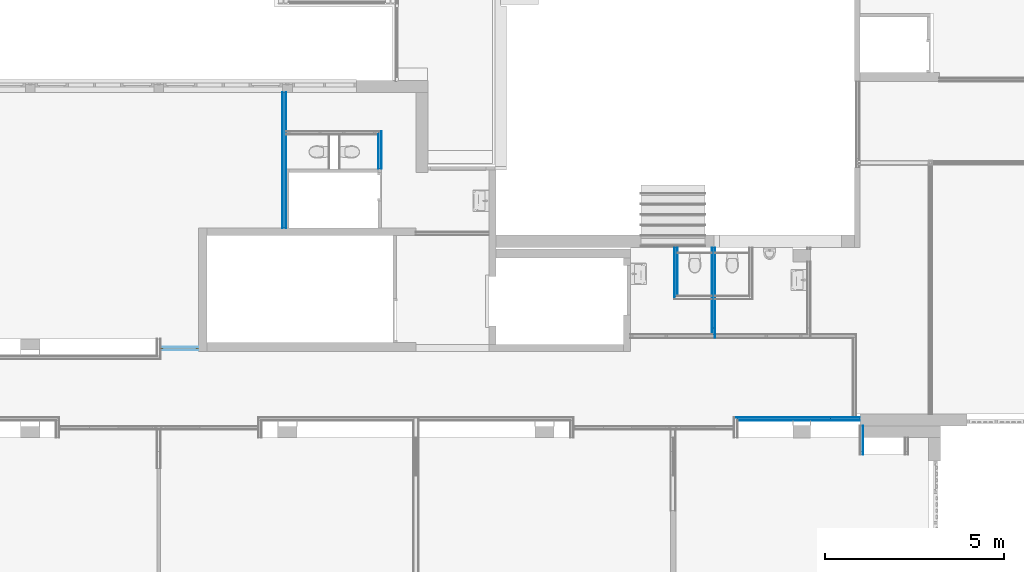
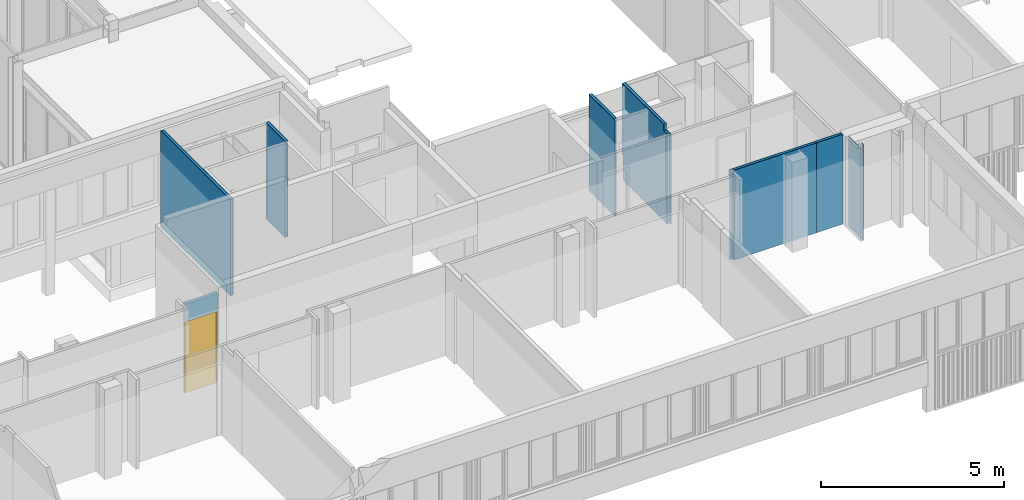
# One storey, part 60 of 99: 19 building element parts, 1 door, 1 opening, 8 elements without a shape of their own, plus 3 elements that do not belong to this part.
"""IFC2X3 building model written with IfcOpenShell, lengths in millimetres."""

from ifc_helpers import new_model, entity, si_unit, converted_unit, derived_unit, money_unit, direction, frame, origin_with_axes, place, context, subcontext, project, spatial, open_shell, faceted_brep, surface_model, material, type_object, element, fill, aggregate, save


model = new_model("IFC2X3")

# Units and contexts
model_context = context("Model", 3, precision=0.01, world=origin_with_axes(), true_north=direction((0.0, 1.0)))
body_context = subcontext(model_context, "Body", "Model", "MODEL_VIEW")
ifc_project = project(units=[si_unit("LENGTHUNIT", "METRE", prefix="MILLI"), si_unit("AREAUNIT", "SQUARE_METRE"), si_unit("VOLUMEUNIT", "CUBIC_METRE"), converted_unit("PLANEANGLEUNIT", "DEGREE", entity("IfcPlaneAngleMeasure", 0.0174532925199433), si_unit("PLANEANGLEUNIT", "RADIAN"), dimensions=[0, 0, 0, 0, 0, 0, 0]), money_unit("EUR"), converted_unit("TIMEUNIT", "Year", entity("IfcTimeMeasure", 31557600.0), si_unit("TIMEUNIT", "SECOND"), dimensions=[0, 0, 1, 0, 0, 0, 0]), si_unit("MASSUNIT", "GRAM", prefix="KILO"), si_unit("THERMODYNAMICTEMPERATUREUNIT", "DEGREE_CELSIUS"), si_unit("LUMINOUSINTENSITYUNIT", "LUMEN"), si_unit("ENERGYUNIT", "JOULE", prefix="MEGA"), derived_unit("THERMALCONDUCTANCEUNIT", [(si_unit("POWERUNIT", "WATT"), 1), (si_unit("LENGTHUNIT", "METRE"), -1), (si_unit("THERMODYNAMICTEMPERATUREUNIT", "KELVIN"), -1)]), derived_unit("SPECIFICHEATCAPACITYUNIT", [(si_unit("ENERGYUNIT", "JOULE"), 1), (si_unit("MASSUNIT", "GRAM", prefix="KILO"), -1), (si_unit("THERMODYNAMICTEMPERATUREUNIT", "KELVIN"), -1)]), derived_unit("MASSDENSITYUNIT", [(si_unit("MASSUNIT", "GRAM", prefix="KILO"), 1), (si_unit("VOLUMEUNIT", "CUBIC_METRE"), -1)])], contexts=[model_context])

# Site, building, storey
site_placement = place(None, origin_with_axes())
site = spatial("IfcSite", under=ifc_project, at=site_placement, Name="Site", CompositionType="ELEMENT")
building_placement = place(site_placement, origin_with_axes())
building = spatial("IfcBuilding", under=site, at=building_placement, Name="Naam gebouw", CompositionType="ELEMENT")
storey_placement = place(building_placement, frame((0.0, 0.0, 7650.0), z_axis=(0.0, 0.0, 1.0), x_axis=(1.0, 0.0, 0.0)))
storey = spatial("IfcBuildingStorey", under=building, at=storey_placement, Name="2e verdieping N", CompositionType="ELEMENT", Elevation=7650.0)

# Door
door_style = type_object("IfcDoorStyle", Name="D1 zl2 27", ConstructionType="NOTDEFINED", OperationType="USERDEFINED", ParameterTakesPrecedence=False, Sizeable=False)
wall_7_placement = place(storey_placement, frame((10850.0, 12825.85635739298, 0.0), z_axis=(0.0, 0.0, 1.0), x_axis=(1.0, 0.0, 0.0)))
opening_placement = place(wall_7_placement, frame((527.7502592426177, 0.0, 0.0), z_axis=(0.0, 0.0, 1.0), x_axis=(1.0, 0.0, 0.0)))
door_placement = place(opening_placement, frame((-527.7502592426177, 0.0, 0.0), z_axis=(0.0, 0.0, 1.0), x_axis=(1.0, 0.0, 0.0)))
door = element("IfcDoor", 1, at=door_placement, inside=storey, type_object=door_style, Name="_Merk-x", ObjectType="DOOR", OverallHeight=2400.0, OverallWidth=1055.5, context=body_context, shape_type="SurfaceModel", body=[
    faceted_brep([(0.0, 9.999999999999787, 0.0), (29.99999999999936, 9.999999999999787, 0.0), (29.99999999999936, -9.999999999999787, 0.0), (0.0, -9.999999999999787, 0.0), (0.0, 9.999999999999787, 2369.999999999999), (29.99999999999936, 9.999999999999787, 2369.999999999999), (29.99999999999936, 9.999999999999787, 30.00000000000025), (29.99999999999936, -9.999999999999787, 30.00000000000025), (29.99999999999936, -9.999999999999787, 2369.999999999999), (0.0, -9.999999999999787, 2369.999999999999)], [[[0, 1, 2, 3]], [[0, 4, 5, 6, 1]], [[1, 6, 7, 2]], [[3, 2, 7, 8, 9]], [[4, 0, 3, 9]], [[5, 4, 9, 8]], [[6, 5, 8, 7]]]),
    faceted_brep([(77.7881246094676, -9.000000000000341, 0.0), (77.7881246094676, -9.000000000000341, 2369.999999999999), (77.7881246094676, -9.999999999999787, 2369.999999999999), (77.7881246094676, -9.999999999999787, 0.0), (60.78812460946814, -9.000000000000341, 2369.999999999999), (60.78812460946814, -9.000000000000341, 0.0), (60.78812460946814, 9.999999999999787, 2369.999999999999), (47.78812460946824, 9.999999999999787, 2369.999999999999), (47.78812460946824, -9.999999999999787, 2369.999999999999), (47.78812460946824, -9.999999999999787, 0.0), (47.78812460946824, -9.999999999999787, 30.00000000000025), (47.78812460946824, 9.999999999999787, 0.0), (60.78812460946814, 9.999999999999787, 0.0), (47.78812460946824, 9.999999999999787, 30.00000000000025)], [[[0, 1, 2, 3]], [[4, 1, 0, 5]], [[4, 6, 7, 8, 2, 1]], [[9, 3, 2, 8, 10]], [[5, 0, 3, 9, 11, 12]], [[6, 4, 5, 12]], [[6, 12, 11, 13, 7]], [[13, 10, 8, 7]], [[11, 9, 10, 13]]]),
    faceted_brep([(29.99999999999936, 9.999999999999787, 30.00000000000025), (29.99999999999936, 9.999999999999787, 0.0), (29.99999999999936, -9.999999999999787, 0.0), (29.99999999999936, -9.999999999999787, 30.00000000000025), (47.78812460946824, 9.999999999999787, 30.00000000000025), (47.78812460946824, 9.999999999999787, 0.0), (47.78812460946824, -9.999999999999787, 0.0), (47.78812460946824, -9.999999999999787, 30.00000000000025)], [[[0, 1, 2, 3]], [[0, 4, 5, 1]], [[1, 5, 6, 2]], [[3, 2, 6, 7]], [[4, 0, 3, 7]], [[5, 4, 7, 6]]]),
    faceted_brep([(1055.500518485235, 9.999999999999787, 0.0), (1055.500518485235, 9.999999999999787, 2369.999999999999), (1055.500518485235, -9.999999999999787, 2369.999999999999), (1055.500518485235, -9.999999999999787, 0.0), (1025.500518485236, 9.999999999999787, 0.0), (1025.500518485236, 9.999999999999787, 30.00000000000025), (1025.500518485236, 9.999999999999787, 2369.999999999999), (1025.500518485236, -9.999999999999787, 2369.999999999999), (1025.500518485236, -9.999999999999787, 30.00000000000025), (1025.500518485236, -9.999999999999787, 0.0)], [[[0, 1, 2, 3]], [[0, 4, 5, 6, 1]], [[1, 6, 7, 2]], [[3, 2, 7, 8, 9]], [[4, 0, 3, 9]], [[5, 4, 9, 8]], [[6, 5, 8, 7]]]),
    faceted_brep([(994.7881246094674, -9.000000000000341, 2369.999999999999), (977.788124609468, -9.000000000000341, 2369.999999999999), (977.788124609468, -9.999999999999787, 2369.999999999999), (1007.788124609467, -9.999999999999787, 2369.999999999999), (1007.788124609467, 9.999999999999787, 2369.999999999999), (994.7881246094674, 9.999999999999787, 2369.999999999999), (994.7881246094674, -9.000000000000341, 0.0), (977.788124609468, -9.000000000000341, 0.0), (977.788124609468, -9.999999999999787, 0.0), (1007.788124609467, -9.999999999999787, 0.0), (1007.788124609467, -9.999999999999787, 30.00000000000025), (1007.788124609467, 9.999999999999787, 30.00000000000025), (994.7881246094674, 9.999999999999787, 0.0), (1007.788124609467, 9.999999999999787, 0.0)], [[[0, 1, 2, 3, 4, 5]], [[1, 0, 6, 7]], [[1, 7, 8, 2]], [[8, 9, 10, 3, 2]], [[4, 3, 10, 11]], [[12, 5, 4, 11, 13]], [[0, 5, 12, 6]], [[6, 12, 13, 9, 8, 7]], [[11, 10, 9, 13]]]),
    faceted_brep([(1007.788124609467, 9.999999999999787, 30.00000000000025), (1007.788124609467, 9.999999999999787, 0.0), (1007.788124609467, -9.999999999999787, 0.0), (1007.788124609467, -9.999999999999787, 30.00000000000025), (1025.500518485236, 9.999999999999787, 30.00000000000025), (1025.500518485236, 9.999999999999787, 0.0), (1025.500518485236, -9.999999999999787, 0.0), (1025.500518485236, -9.999999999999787, 30.00000000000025)], [[[0, 1, 2, 3]], [[0, 4, 5, 1]], [[1, 5, 6, 2]], [[3, 2, 6, 7]], [[4, 0, 3, 7]], [[5, 4, 7, 6]]]),
    faceted_brep([(60.78812460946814, 9.999999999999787, 2387.0), (60.78812460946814, 9.999999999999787, 2369.999999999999), (47.78812460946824, 9.999999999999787, 2369.999999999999), (29.99999999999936, 9.999999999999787, 2369.999999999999), (0.0, 9.999999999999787, 2369.999999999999), (0.0, 9.999999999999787, 2400.0), (1055.500518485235, 9.999999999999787, 2400.0), (1055.500518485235, 9.999999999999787, 2369.999999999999), (1025.500518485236, 9.999999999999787, 2369.999999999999), (1007.788124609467, 9.999999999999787, 2369.999999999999), (994.7881246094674, 9.999999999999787, 2369.999999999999), (994.7881246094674, 9.999999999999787, 2387.0), (60.78812460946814, -9.000000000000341, 2387.0), (60.78812460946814, -9.000000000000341, 2369.999999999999), (977.788124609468, -9.000000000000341, 2369.999999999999), (977.788124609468, -9.999999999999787, 2369.999999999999), (77.7881246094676, -9.999999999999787, 2369.999999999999), (47.78812460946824, -9.999999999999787, 2369.999999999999), (29.99999999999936, -9.999999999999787, 2369.999999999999), (0.0, -9.999999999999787, 2369.999999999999), (0.0, -9.999999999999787, 2400.0), (1055.500518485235, -9.999999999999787, 2400.0), (1055.500518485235, -9.999999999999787, 2369.999999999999), (1025.500518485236, -9.999999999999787, 2369.999999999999), (994.7881246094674, -9.000000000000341, 2369.999999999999), (1007.788124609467, -9.999999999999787, 2369.999999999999), (994.7881246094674, -9.000000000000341, 2387.0)], [[[0, 1, 2, 3, 4, 5, 6, 7, 8, 9, 10, 11]], [[1, 0, 12, 13]], [[13, 14, 15, 16, 17, 2, 1]], [[2, 17, 18, 3]], [[3, 18, 19, 4]], [[4, 19, 20, 5]], [[5, 20, 21, 6]], [[6, 21, 22, 7]], [[7, 22, 23, 8]], [[24, 10, 9, 8, 23, 25, 15, 14]], [[11, 10, 24, 26]], [[0, 11, 26, 12]], [[24, 14, 13, 12, 26]], [[23, 22, 21, 20, 19, 18, 17, 16, 15, 25]]]),
    faceted_brep([(994.7881246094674, 0.9999999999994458, 0.0), (994.7881246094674, -9.000000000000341, 0.0), (60.78812460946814, -9.000000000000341, 0.0), (60.78812460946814, 0.9999999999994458, 0.0), (994.7881246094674, 0.9999999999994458, 2387.0), (994.7881246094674, -9.000000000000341, 2387.0), (60.78812460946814, -9.000000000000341, 2387.0), (60.78812460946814, 0.9999999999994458, 2387.0)], [[[0, 1, 2, 3]], [[4, 5, 1, 0]], [[1, 5, 6, 2]], [[3, 2, 6, 7]], [[0, 3, 7, 4]], [[7, 6, 5, 4]]]),
    surface_model("IfcShellBasedSurfaceModel", [(29.99999999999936, 9.000000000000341, 30.00000000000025), (29.99999999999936, 9.000000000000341, 2369.999999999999), (47.78812460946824, 9.000000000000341, 2369.999999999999), (47.78812460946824, 9.000000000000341, 30.00000000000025)], [open_shell([[[0, 1, 2, 3]]])]),
    surface_model("IfcShellBasedSurfaceModel", [(29.99999999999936, 0.9999999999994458, 30.00000000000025), (47.78812460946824, 0.9999999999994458, 30.00000000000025), (47.78812460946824, 0.9999999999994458, 2369.999999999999), (29.99999999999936, 0.9999999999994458, 2369.999999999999)], [open_shell([[[0, 1, 2, 3]]])]),
    surface_model("IfcShellBasedSurfaceModel", [(1007.788124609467, 9.000000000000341, 30.00000000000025), (1007.788124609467, 9.000000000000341, 2369.999999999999), (1025.500518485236, 9.000000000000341, 2369.999999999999), (1025.500518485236, 9.000000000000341, 30.00000000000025)], [open_shell([[[0, 1, 2, 3]]])]),
    surface_model("IfcShellBasedSurfaceModel", [(1007.788124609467, 0.9999999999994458, 30.00000000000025), (1025.500518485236, 0.9999999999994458, 30.00000000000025), (1025.500518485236, 0.9999999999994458, 2369.999999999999), (1007.788124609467, 0.9999999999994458, 2369.999999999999)], [open_shell([[[0, 1, 2, 3]]])]),
])

# Wall, building element parts
wall_type = type_object("IfcWallType", Name="Metalstud iso 100 100", PredefinedType="NOTDEFINED")
wall_1_placement = place(storey_placement, frame((25227.99999999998, 15650.91242510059, 0.0), z_axis=(0.0, 0.0, 1.0), x_axis=(0.0, -1.0, 0.0)))
wall_1 = element("IfcWall", 2, at=wall_1_placement, inside=storey, type_object=wall_type, Name="_Wand-x")
ifc_material_1 = material(Name="Gipsplaat")
building_element_part_1_placement = place(wall_1_placement, origin_with_axes())
building_element_part_1 = element("IfcBuildingElementPart", 3, at=building_element_part_1_placement, material=ifc_material_1, Name="Gipsplaat", context=body_context, shape_type="Brep", body=[
    faceted_brep([(0.0, 100.0000000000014, 0.0), (0.0, 100.0000000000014, 2539.999999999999), (0.0, 100.0000000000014, 3199.999999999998), (1350.0, 100.0000000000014, 3199.999999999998), (1350.0, 100.0000000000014, 0.0), (0.0, 87.49999999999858, 0.0), (0.0, 87.49999999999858, 2539.999999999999), (0.0, 87.49999999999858, 3199.999999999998), (1350.0, 87.49999999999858, 3199.999999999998), (1350.0, 87.49999999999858, 0.0)], [[[0, 1, 2, 3, 4]], [[1, 0, 5, 6, 7, 2]], [[3, 2, 7, 8]], [[4, 3, 8, 9]], [[5, 0, 4, 9]], [[6, 5, 9, 8, 7]]]),
])
ifc_material_2 = material(Name="Isolatie - Steenwol LSW")
building_element_part_2_placement = place(wall_1_placement, origin_with_axes())
building_element_part_2 = element("IfcBuildingElementPart", 4, at=building_element_part_2_placement, material=ifc_material_2, Name="Isolatie - Steenwol LSW", context=body_context, shape_type="Brep", body=[
    faceted_brep([(0.0, 87.49999999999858, 0.0), (0.0, 87.49999999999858, 2539.999999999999), (0.0, 87.49999999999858, 3199.999999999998), (1362.500000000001, 87.49999999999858, 3199.999999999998), (1362.500000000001, 87.49999999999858, 0.0), (0.0, 12.49999999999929, 0.0), (0.0, 12.49999999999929, 2539.999999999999), (0.0, 12.49999999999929, 3199.999999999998), (1362.500000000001, 12.49999999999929, 3199.999999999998), (1362.500000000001, 12.49999999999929, 0.0)], [[[0, 1, 2, 3, 4]], [[1, 0, 5, 6, 7, 2]], [[3, 2, 7, 8]], [[4, 3, 8, 9]], [[5, 0, 4, 9]], [[6, 5, 9, 8, 7]]]),
])
building_element_part_3_placement = place(wall_1_placement, origin_with_axes())
building_element_part_3 = element("IfcBuildingElementPart", 5, at=building_element_part_3_placement, material=ifc_material_1, Name="Gipsplaat", context=body_context, shape_type="Brep", body=[
    faceted_brep([(0.0, 12.49999999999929, 0.0), (0.0, 12.49999999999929, 2539.999999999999), (0.0, 12.49999999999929, 3199.999999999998), (1437.5, 12.49999999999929, 3199.999999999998), (1437.5, 12.49999999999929, 0.0), (0.0, 0.0, 0.0), (0.0, 0.0, 2539.999999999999), (0.0, 0.0, 3199.999999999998), (1437.5, 0.0, 3199.999999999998), (1437.5, 0.0, 0.0)], [[[0, 1, 2, 3, 4]], [[1, 0, 5, 6, 7, 2]], [[3, 2, 7, 8]], [[4, 3, 8, 9]], [[5, 0, 4, 9]], [[6, 5, 9, 8, 7]]]),
])
aggregate(wall_1, [building_element_part_1, building_element_part_2, building_element_part_3])

wall_2_placement = place(storey_placement, frame((16937.79224075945, 17856.42315075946, 0.0), z_axis=(0.0, 0.0, 1.0), x_axis=(0.0, 1.0, 0.0)))
wall_2 = element("IfcWall", 6, at=wall_2_placement, inside=storey, type_object=wall_type, Name="_Wand-x")
building_element_part_4_placement = place(wall_2_placement, origin_with_axes())
building_element_part_4 = element("IfcBuildingElementPart", 7, at=building_element_part_4_placement, material=ifc_material_2, Name="Isolatie - Steenwol LSW", context=body_context, shape_type="Brep", body=[
    faceted_brep([(1037.500000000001, -12.49999999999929, 3199.999999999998), (0.0, -12.49999999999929, 3199.999999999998), (0.0, -87.49999999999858, 3199.999999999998), (1037.500000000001, -87.49999999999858, 3199.999999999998), (1037.500000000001, -12.49999999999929, 0.0), (0.0, -12.49999999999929, 0.0), (0.0, -87.49999999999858, 0.0), (1037.500000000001, -87.49999999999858, 0.0)], [[[0, 1, 2, 3]], [[4, 5, 1, 0]], [[2, 1, 5, 6]], [[3, 2, 6, 7]], [[3, 7, 4, 0]], [[7, 6, 5, 4]]]),
])
building_element_part_5_placement = place(wall_2_placement, origin_with_axes())
building_element_part_5 = element("IfcBuildingElementPart", 8, at=building_element_part_5_placement, material=ifc_material_1, Name="Gipsplaat", context=body_context, shape_type="Brep", body=[
    faceted_brep([(962.5000000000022, 0.0, 3199.999999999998), (0.0, 0.0, 3199.999999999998), (0.0, -12.49999999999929, 3199.999999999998), (962.5000000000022, -12.49999999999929, 3199.999999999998), (962.5000000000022, 0.0, 0.0), (0.0, 0.0, 0.0), (0.0, -12.49999999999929, 0.0), (962.5000000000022, -12.49999999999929, 0.0)], [[[0, 1, 2, 3]], [[4, 5, 1, 0]], [[2, 1, 5, 6]], [[3, 2, 6, 7]], [[3, 7, 4, 0]], [[7, 6, 5, 4]]]),
])

# Wall, building element part
wall_3_placement = place(storey_placement, frame((26327.99999999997, 15650.91242510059, 0.0), z_axis=(0.0, 0.0, 1.0), x_axis=(0.0, -1.0, 0.0)))
wall_3 = element("IfcWall", 9, at=wall_3_placement, inside=storey, type_object=wall_type, Name="_Wand-x")
building_element_part_6_placement = place(wall_3_placement, origin_with_axes())
building_element_part_6 = element("IfcBuildingElementPart", 10, at=building_element_part_6_placement, material=ifc_material_2, Name="Isolatie - Steenwol LSW", context=body_context, shape_type="Brep", body=[
    faceted_brep([(42.49999999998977, 37.50000000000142, 0.0), (42.49999999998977, 37.50000000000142, 839.9999999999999), (0.0, 37.50000000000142, 839.9999999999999), (0.0, 37.50000000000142, 3199.999999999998), (2254.999999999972, 37.50000000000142, 3199.999999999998), (2254.999999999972, 37.50000000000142, 2989.999999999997), (2442.554305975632, 37.50000000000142, 2989.999999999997), (2442.554305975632, 37.50000000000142, 0.0), (42.49999999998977, -37.50000000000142, 0.0), (42.49999999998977, -37.50000000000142, 839.9999999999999), (0.0, -37.50000000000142, 839.9999999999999), (0.0, -37.50000000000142, 3199.999999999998), (2254.999999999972, -37.50000000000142, 3199.999999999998), (2254.999999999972, -37.50000000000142, 2989.999999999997), (2442.554305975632, -37.50000000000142, 2989.999999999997), (2442.554305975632, -37.50000000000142, 0.0)], [[[0, 1, 2, 3, 4, 5, 6, 7]], [[1, 0, 8, 9]], [[10, 2, 1, 9]], [[2, 10, 11, 3]], [[11, 12, 4, 3]], [[13, 5, 4, 12]], [[14, 6, 5, 13]], [[7, 6, 14, 15]], [[8, 0, 7, 15]], [[9, 8, 15, 14, 13, 12, 11, 10]]]),
])

# Building element part
building_element_part_7_placement = place(wall_2_placement, origin_with_axes())
building_element_part_7 = element("IfcBuildingElementPart", 11, at=building_element_part_7_placement, material=ifc_material_1, Name="Gipsplaat", context=body_context, shape_type="Brep", body=[
    faceted_brep([(1050.000000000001, -87.49999999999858, 3199.999999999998), (0.0, -87.49999999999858, 3199.999999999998), (0.0, -100.0000000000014, 3199.999999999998), (1050.000000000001, -100.0000000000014, 3199.999999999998), (1050.000000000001, -87.49999999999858, 0.0), (0.0, -87.49999999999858, 0.0), (0.0, -100.0000000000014, 0.0), (1050.000000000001, -100.0000000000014, 0.0)], [[[0, 1, 2, 3]], [[4, 5, 1, 0]], [[2, 1, 5, 6]], [[3, 2, 6, 7]], [[3, 7, 4, 0]], [[7, 6, 5, 4]]]),
])

aggregate(wall_2, [building_element_part_4, building_element_part_5, building_element_part_7])

building_element_part_8_placement = place(wall_3_placement, origin_with_axes())
building_element_part_8 = element("IfcBuildingElementPart", 12, at=building_element_part_8_placement, material=ifc_material_1, Name="Gipsplaat", context=body_context, shape_type="Brep", body=[
    faceted_brep([(42.49999999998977, 50.00000000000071, 0.0), (42.49999999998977, 50.00000000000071, 839.9999999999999), (0.0, 50.00000000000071, 839.9999999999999), (0.0, 50.00000000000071, 3199.999999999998), (2254.999999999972, 50.00000000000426, 3199.999999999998), (2254.999999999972, 50.00000000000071, 2989.999999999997), (2517.554305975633, 50.00000000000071, 2989.999999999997), (2517.554305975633, 50.00000000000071, 0.0), (42.49999999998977, 37.50000000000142, 0.0), (42.49999999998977, 37.50000000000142, 839.9999999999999), (0.0, 37.50000000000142, 839.9999999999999), (0.0, 37.50000000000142, 3199.999999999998), (2254.999999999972, 37.50000000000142, 3199.999999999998), (2254.999999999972, 37.50000000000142, 2989.999999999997), (2517.554305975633, 37.50000000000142, 2989.999999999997), (2517.554305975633, 37.50000000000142, 0.0)], [[[0, 1, 2, 3, 4, 5, 6, 7]], [[1, 0, 8, 9]], [[10, 2, 1, 9]], [[2, 10, 11, 3]], [[11, 12, 4, 3]], [[13, 5, 4, 12]], [[14, 6, 5, 13]], [[7, 6, 14, 15]], [[8, 0, 7, 15]], [[9, 8, 15, 14, 13, 12, 11, 10]]]),
])

building_element_part_9_placement = place(wall_3_placement, origin_with_axes())
building_element_part_9 = element("IfcBuildingElementPart", 13, at=building_element_part_9_placement, material=ifc_material_1, Name="Gipsplaat", context=body_context, shape_type="Brep", body=[
    faceted_brep([(42.49999999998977, -37.50000000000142, 0.0), (42.49999999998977, -37.50000000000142, 839.9999999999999), (0.0, -37.50000000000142, 839.9999999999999), (0.0, -37.50000000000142, 3199.999999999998), (2254.999999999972, -37.50000000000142, 3199.999999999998), (2254.999999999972, -37.50000000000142, 2989.999999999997), (2430.054305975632, -37.50000000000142, 2989.999999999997), (2430.054305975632, -37.50000000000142, 0.0), (42.49999999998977, -50.00000000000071, 0.0), (42.49999999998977, -50.00000000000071, 839.9999999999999), (0.0, -50.00000000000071, 839.9999999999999), (0.0, -50.00000000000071, 3199.999999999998), (2254.999999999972, -50.00000000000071, 3199.999999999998), (2254.999999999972, -50.00000000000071, 2989.999999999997), (2430.054305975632, -50.00000000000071, 2989.999999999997), (2430.054305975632, -50.00000000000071, 0.0)], [[[0, 1, 2, 3, 4, 5, 6, 7]], [[1, 0, 8, 9]], [[10, 2, 1, 9]], [[2, 10, 11, 3]], [[11, 12, 4, 3]], [[13, 5, 4, 12]], [[14, 6, 5, 13]], [[7, 6, 14, 15]], [[8, 0, 7, 15]], [[9, 8, 15, 14, 13, 12, 11, 10]]]),
])

aggregate(wall_3, [building_element_part_6, building_element_part_8, building_element_part_9])

# Wall, building element parts
wall_4_placement = place(storey_placement, frame((27000.0, 10805.91242510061, 0.0), z_axis=(0.0, 0.0, 1.0), x_axis=(1.0, 0.0, 0.0)))
wall_4 = element("IfcWall", 14, at=wall_4_placement, inside=storey, type_object=wall_type, Name="_Wand-x")
building_element_part_10_placement = place(wall_4_placement, origin_with_axes())
building_element_part_10 = element("IfcBuildingElementPart", 15, at=building_element_part_10_placement, material=ifc_material_1, Name="Gipsplaat", context=body_context, shape_type="Brep", body=[
    faceted_brep([(0.0, 12.50000000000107, 2989.999999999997), (2599.999999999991, 12.50000000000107, 2989.999999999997), (2599.999999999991, 12.49999999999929, 0.0), (0.0, 12.50000000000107, 0.0), (0.0, 12.50000000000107, 2159.999999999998), (2599.999999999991, 0.0, 2989.999999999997), (0.0, 0.0, 2989.999999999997), (2599.999999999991, 0.0, 0.0), (0.0, 0.0, 0.0)], [[[0, 1, 2, 3, 4]], [[5, 1, 0, 6]], [[1, 5, 7, 2]], [[7, 8, 3, 2]], [[6, 0, 4, 3, 8]], [[5, 6, 8, 7]]]),
])
building_element_part_11_placement = place(wall_4_placement, origin_with_axes())
building_element_part_11 = element("IfcBuildingElementPart", 16, at=building_element_part_11_placement, material=ifc_material_1, Name="Gipsplaat", context=body_context, shape_type="Brep", body=[
    faceted_brep([(-87.49999999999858, 99.99999689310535, 2989.999999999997), (2599.999999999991, 99.99999999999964, 2989.999999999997), (2599.999999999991, 99.99999999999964, 0.0), (-87.50000000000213, 100.000003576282, 0.0), (-87.49999999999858, 99.99999874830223, 2159.999999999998), (2599.999999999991, 87.50000000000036, 2989.999999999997), (-87.49999999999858, 87.50000000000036, 2989.999999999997), (2599.999999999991, 87.50000000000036, 0.0), (-87.50000000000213, 87.50000000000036, 0.0), (-87.49999999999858, 87.50000000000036, 2159.999999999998)], [[[0, 1, 2, 3, 4]], [[5, 1, 0, 6]], [[1, 5, 7, 2]], [[7, 8, 3, 2]], [[6, 0, 4, 3, 8, 9]], [[5, 6, 9, 8, 7]]]),
])
building_element_part_12_placement = place(wall_4_placement, origin_with_axes())
building_element_part_12 = element("IfcBuildingElementPart", 17, at=building_element_part_12_placement, material=ifc_material_2, Name="Isolatie - Steenwol LSW", context=body_context, shape_type="Brep", body=[
    faceted_brep([(-12.49999999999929, 87.50000000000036, 2989.999999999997), (2599.999999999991, 87.50000000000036, 2989.999999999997), (2599.999999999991, 87.50000000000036, 0.0), (-12.50000000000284, 87.50000000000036, 0.0), (-12.49999999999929, 87.50000000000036, 2159.999999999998), (2599.999999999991, 12.50000000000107, 2989.999999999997), (-12.49999999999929, 12.50000000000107, 2989.999999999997), (2599.999999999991, 12.49999999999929, 0.0), (-12.50000000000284, 12.50000000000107, 0.0), (-12.49999999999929, 12.50000000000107, 2159.999999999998)], [[[0, 1, 2, 3, 4]], [[5, 1, 0, 6]], [[1, 5, 7, 2]], [[7, 8, 3, 2]], [[6, 0, 4, 3, 8, 9]], [[5, 6, 9, 8, 7]]]),
])
aggregate(wall_4, [building_element_part_10, building_element_part_11, building_element_part_12])

wall_5_placement = place(storey_placement, frame((29599.99999999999, 10805.91242510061, 0.0), z_axis=(0.0, 0.0, 1.0), x_axis=(1.0, 0.0, 0.0)))
wall_5 = element("IfcWall", 18, at=wall_5_placement, inside=storey, type_object=wall_type, Name="_Wand-x")
building_element_part_13_placement = place(wall_5_placement, origin_with_axes())
building_element_part_13 = element("IfcBuildingElementPart", 19, at=building_element_part_13_placement, material=ifc_material_2, Name="Isolatie - Steenwol LSW", context=body_context, shape_type="Brep", body=[
    faceted_brep([(0.0, 87.50000000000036, 2989.999999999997), (825.00000000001, 87.50000000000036, 2989.999999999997), (825.00000000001, 87.50000000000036, 0.0), (0.0, 87.50000000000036, 0.0), (825.00000000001, 12.50000000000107, 2989.999999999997), (0.0, 12.50000000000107, 2989.999999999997), (825.00000000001, 12.49999999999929, 0.0), (0.0, 12.49999999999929, 0.0)], [[[0, 1, 2, 3]], [[4, 1, 0, 5]], [[1, 4, 6, 2]], [[7, 3, 2, 6]], [[5, 0, 3, 7]], [[4, 5, 7, 6]]]),
])
building_element_part_14_placement = place(wall_5_placement, origin_with_axes())
building_element_part_14 = element("IfcBuildingElementPart", 20, at=building_element_part_14_placement, material=ifc_material_1, Name="Gipsplaat", context=body_context, shape_type="Brep", body=[
    faceted_brep([(0.0, 12.50000000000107, 2989.999999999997), (825.00000000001, 12.50000000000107, 2989.999999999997), (825.00000000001, 12.49999999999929, 0.0), (0.0, 12.49999999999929, 0.0), (825.00000000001, 0.0, 2989.999999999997), (0.0, 0.0, 2989.999999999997), (825.00000000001, 0.0, 0.0), (0.0, 0.0, 0.0)], [[[0, 1, 2, 3]], [[4, 1, 0, 5]], [[1, 4, 6, 2]], [[7, 3, 2, 6]], [[5, 0, 3, 7]], [[4, 5, 7, 6]]]),
])
building_element_part_15_placement = place(wall_5_placement, origin_with_axes())
building_element_part_15 = element("IfcBuildingElementPart", 21, at=building_element_part_15_placement, material=ifc_material_1, Name="Gipsplaat", context=body_context, shape_type="Brep", body=[
    faceted_brep([(0.0, 99.99999999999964, 2989.999999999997), (825.00000000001, 99.99999999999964, 2989.999999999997), (825.00000000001, 99.99999999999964, 0.0), (0.0, 99.99999999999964, 0.0), (825.00000000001, 87.50000000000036, 2989.999999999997), (0.0, 87.50000000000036, 2989.999999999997), (825.00000000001, 87.50000000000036, 0.0), (0.0, 87.50000000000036, 0.0)], [[[0, 1, 2, 3]], [[4, 1, 0, 5]], [[1, 4, 6, 2]], [[7, 3, 2, 6]], [[5, 0, 3, 7]], [[4, 5, 7, 6]]]),
])
aggregate(wall_5, [building_element_part_13, building_element_part_14, building_element_part_15])

wall_6_placement = place(storey_placement, frame((14362.5, 19995.85741096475, 0.0), z_axis=(0.0, 0.0, 1.0), x_axis=(0.0, -1.0, 0.0)))
wall_6 = element("IfcWall", 22, at=wall_6_placement, inside=storey, type_object=wall_type, Name="_Wand-x")
building_element_part_16_placement = place(wall_6_placement, origin_with_axes())
building_element_part_16 = element("IfcBuildingElementPart", 23, at=building_element_part_16_placement, material=ifc_material_1, Name="Gipsplaat", context=body_context, shape_type="Brep", body=[
    faceted_brep([(3799.937150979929, -87.50000000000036, 0.0), (3799.937150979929, -99.99999999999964, 0.0), (0.0, -99.99999999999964, 0.0), (0.0, -87.50000000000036, 0.0), (3799.937150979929, -87.50000000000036, 3199.999999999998), (3799.937150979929, -99.99999999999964, 3199.999999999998), (0.0, -99.99999999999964, 3199.999999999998), (0.0, -87.50000000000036, 3199.999999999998)], [[[0, 1, 2, 3]], [[0, 4, 5, 1]], [[1, 5, 6, 2]], [[3, 2, 6, 7]], [[4, 0, 3, 7]], [[5, 4, 7, 6]]]),
])
building_element_part_17_placement = place(wall_6_placement, origin_with_axes())
building_element_part_17 = element("IfcBuildingElementPart", 24, at=building_element_part_17_placement, material=ifc_material_2, Name="Isolatie - Steenwol LSW", context=body_context, shape_type="Brep", body=[
    faceted_brep([(3799.937150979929, -12.50000000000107, 0.0), (3799.937150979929, -87.50000000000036, 0.0), (0.0, -87.50000000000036, 0.0), (0.0, -12.49999999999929, 0.0), (3799.937150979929, -12.50000000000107, 3199.999999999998), (3799.937150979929, -87.50000000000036, 3199.999999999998), (0.0, -87.50000000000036, 3199.999999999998), (0.0, -12.49999999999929, 3199.999999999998)], [[[0, 1, 2, 3]], [[0, 4, 5, 1]], [[1, 5, 6, 2]], [[3, 2, 6, 7]], [[4, 0, 3, 7]], [[5, 4, 7, 6]]]),
])
building_element_part_18_placement = place(wall_6_placement, origin_with_axes())
building_element_part_18 = element("IfcBuildingElementPart", 25, at=building_element_part_18_placement, material=ifc_material_1, Name="Gipsplaat", context=body_context, shape_type="Brep", body=[
    faceted_brep([(3799.937150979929, 0.0, 0.0), (3799.937150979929, -12.50000000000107, 0.0), (0.0, -12.49999999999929, 0.0), (0.0, 0.0, 0.0), (3799.937150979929, 0.0, 3199.999999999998), (3799.937150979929, -12.50000000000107, 3199.999999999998), (0.0, -12.49999999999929, 3199.999999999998), (0.0, 0.0, 3199.999999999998)], [[[0, 1, 2, 3]], [[0, 4, 5, 1]], [[1, 5, 6, 2]], [[3, 2, 6, 7]], [[4, 0, 3, 7]], [[5, 4, 7, 6]]]),
])
aggregate(wall_6, [building_element_part_16, building_element_part_17, building_element_part_18])

# Wall, opening
wall_7 = element("IfcWall", 26, at=wall_7_placement, inside=storey, type_object=wall_type, Name="_Wand-x")
opening = element("IfcOpeningElement", 27, at=opening_placement, cuts=wall_7, Name="_Merk-x", context=body_context, shape_type="Brep", body=[
    faceted_brep([(-527.7502592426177, 9.999999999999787, 0.0), (-527.7502592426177, 9.999999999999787, 2400.0), (-527.7502592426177, 51.00000000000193, 2400.0), (-527.7502592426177, 51.00000000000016, 0.0), (-527.7502592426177, -51.00000000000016, 0.0), (-527.7502592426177, -51.00000000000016, 2400.0), (527.7502592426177, 9.999999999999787, 2400.0), (527.7502592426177, 51.00000000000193, 2400.0), (527.7502592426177, -51.00000000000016, 2400.0), (527.7502592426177, 51.00000000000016, 0.0), (527.7502592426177, 9.999999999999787, 0.0), (527.7502592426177, -51.00000000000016, 0.0)], [[[0, 1, 2, 3]], [[1, 0, 4, 5]], [[6, 7, 2, 1, 5, 8]], [[7, 9, 3, 2]], [[0, 3, 9, 10, 11, 4]], [[5, 4, 11, 8]], [[6, 10, 9, 7]], [[10, 6, 8, 11]]]),
])

fill(opening, door)

# Building element part
building_element_part_19_placement = place(wall_7_placement, origin_with_axes())
building_element_part_19 = element("IfcBuildingElementPart", 28, at=building_element_part_19_placement, material=ifc_material_1, Name="Gipsplaat", context=body_context, shape_type="Brep", body=[
    faceted_brep([(1055.500518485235, 37.49999999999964, 2400.0), (1055.500518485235, 50.00000000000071, 2400.0), (1055.500518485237, 50.00000000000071, 2989.999999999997), (1055.500518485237, 37.49999999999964, 2989.999999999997), (0.0, 50.00000000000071, 2400.0), (0.0, 37.49999999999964, 2400.0), (0.0, 50.00000000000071, 2989.999999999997), (0.0, 37.49999999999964, 2989.999999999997)], [[[0, 1, 2, 3]], [[4, 1, 0, 5]], [[1, 4, 6, 2]], [[2, 6, 7, 3]], [[5, 0, 3, 7]], [[4, 5, 7, 6]]]),
])

building_element_part_20_placement = place(wall_7_placement, origin_with_axes())
building_element_part_20 = element("IfcBuildingElementPart", 29, at=building_element_part_20_placement, material=ifc_material_2, Name="Isolatie - Steenwol LSW", context=body_context, shape_type="Brep", body=[
    faceted_brep([(1055.500518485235, -37.49999999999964, 2400.0), (1055.500518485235, 9.999999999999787, 2400.0), (1055.500518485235, 37.49999999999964, 2400.0), (1055.500518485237, 37.49999999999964, 2989.999999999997), (1055.500518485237, -37.49999999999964, 2989.999999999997), (0.0, -37.49999999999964, 2400.0), (0.0, 9.999999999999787, 2400.0), (0.0, 37.49999999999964, 2400.0), (0.0, 37.49999999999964, 2989.999999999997), (0.0, -37.49999999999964, 2989.999999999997)], [[[0, 1, 2, 3, 4]], [[1, 0, 5, 6, 7, 2]], [[7, 8, 3, 2]], [[8, 9, 4, 3]], [[5, 0, 4, 9]], [[6, 5, 9, 8, 7]]]),
])

building_element_part_21_placement = place(wall_7_placement, origin_with_axes())
building_element_part_21 = element("IfcBuildingElementPart", 30, at=building_element_part_21_placement, material=ifc_material_1, Name="Gipsplaat", context=body_context, shape_type="Brep", body=[
    faceted_brep([(1055.500518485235, -49.99999999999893, 2400.0), (1055.500518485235, -37.49999999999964, 2400.0), (1055.500518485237, -37.49999999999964, 2989.999999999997), (1055.500518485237, -49.99999999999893, 2989.999999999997), (0.0, -37.49999999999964, 2400.0), (0.0, -49.99999999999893, 2400.0), (0.0, -37.49999999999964, 2989.999999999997), (0.0, -49.99999999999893, 2989.999999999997)], [[[0, 1, 2, 3]], [[4, 1, 0, 5]], [[1, 4, 6, 2]], [[2, 6, 7, 3]], [[5, 0, 3, 7]], [[4, 5, 7, 6]]]),
])

aggregate(wall_7, [building_element_part_19, building_element_part_20, building_element_part_21])

# Wall, building element part
wall_8_placement = place(storey_placement, frame((30425.0, 10660.91242510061, 0.0), z_axis=(0.0, 0.0, 1.0), x_axis=(0.0, -1.0, 0.0)))
wall_8 = element("IfcWall", 31, at=wall_8_placement, inside=storey, type_object=wall_type, Name="_Wand-x")
building_element_part_22_placement = place(wall_8_placement, origin_with_axes())
building_element_part_22 = element("IfcBuildingElementPart", 32, at=building_element_part_22_placement, material=ifc_material_1, Name="Gipsplaat", context=body_context, shape_type="Brep", body=[
    faceted_brep([(0.0, 87.49999999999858, 2989.999999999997), (0.0, 100.0000000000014, 2989.999999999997), (0.0, 100.0000000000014, 0.0), (0.0, 87.49999999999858, 0.0), (714.9999999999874, 100.0000000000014, 2989.999999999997), (714.9999999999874, 87.49999999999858, 2989.999999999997), (714.9999999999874, 100.0000000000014, 3199.999999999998), (804.9999999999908, 100.0000000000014, 3199.999999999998), (804.9999999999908, 100.0000000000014, 0.0), (804.9999999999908, 87.49999999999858, 0.0), (804.9999999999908, 87.49999999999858, 3199.999999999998), (714.9999999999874, 87.49999999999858, 3199.999999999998)], [[[0, 1, 2, 3]], [[4, 1, 0, 5]], [[4, 6, 7, 8, 2, 1]], [[2, 8, 9, 3]], [[5, 0, 3, 9, 10, 11]], [[11, 6, 4, 5]], [[6, 11, 10, 7]], [[7, 10, 9, 8]]]),
])
aggregate(wall_8, [building_element_part_22])

save(model, "model.ifc")
